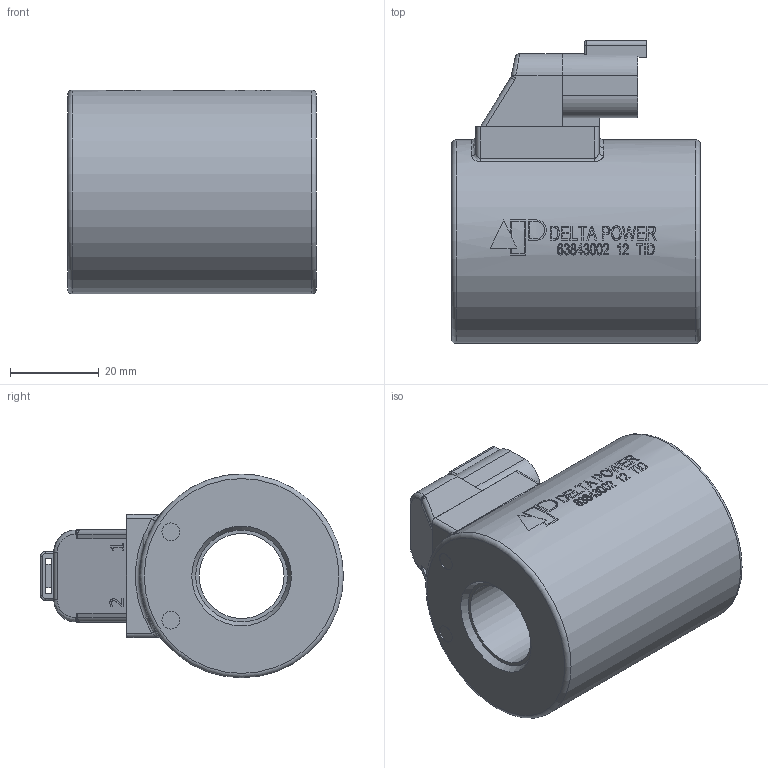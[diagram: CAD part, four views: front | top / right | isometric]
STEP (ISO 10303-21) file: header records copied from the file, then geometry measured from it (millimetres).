
FILE_DESCRIPTION(/* description */ ('"TID" 12VDC W/DEUTSCH CONNECTOR'),/* implementation_level */ '2;1');
FILE_NAME(/* name */ 'R:\Solids\Coils (.STEP)\TID12.stp',/* time_stamp */ '2023-01-06T08:56:57-06:00',/* author */ ('Michael'),/* organization */ (''),/* preprocessor_version */ 'ST-DEVELOPER v17.2',/* originating_system */ 'Autodesk Inventor 2019',/* authorisation */ '');
FILE_SCHEMA (('AUTOMOTIVE_DESIGN { 1 0 10303 214 3 1 1 }'));
Length unit declared in the file: inch
Products named in the file (1): 63843002
Bounding box: 56.2 x 68.4 x 46 mm (x, y, z)
Volume: 85791 mm3; surface area: 17801.9 mm2
Topology: 1 solids, 1 shells, 485 faces, 1297 edges, 858 vertices
Faces by surface type: plane 226, bspline 165, cylinder 80, torus 10, sphere 2, cone 2
Full cylindrical faces by diameter (mm): 1.5 x2, 4 x2, 19.2 x1, 46 x1
Entity records: 19138 total; most frequent: CARTESIAN_POINT 7764, ORIENTED_EDGE 2590, DIRECTION 1895, EDGE_CURVE 1295, VERTEX_POINT 858, LINE 681, VECTOR 681, AXIS2_PLACEMENT_3D 607
